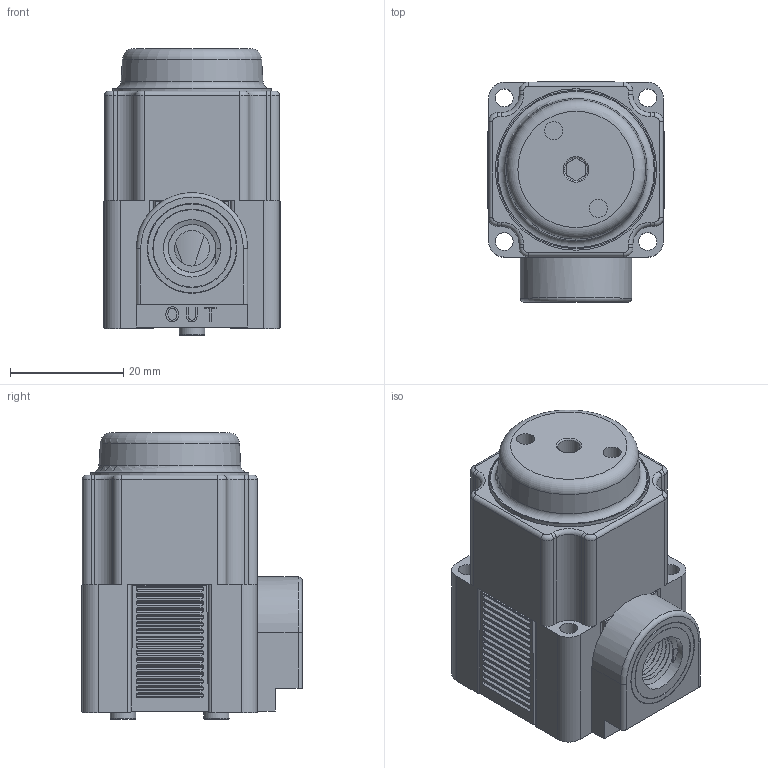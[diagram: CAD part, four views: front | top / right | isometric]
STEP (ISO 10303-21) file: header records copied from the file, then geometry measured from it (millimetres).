
FILE_DESCRIPTION(/* description */ (''),/* implementation_level */ '2;1');
FILE_NAME(/* name */ 'K:\Normteile INVENTOR\Air-Logic\Regulators\PR6000\PR 6___ 1 1''8-27 NPT Threads Out.igs.ipt.stp',/* time_stamp */ '2020-05-27T10:52:37+02:00',/* author */ ('Paul'),/* organization */ (''),/* preprocessor_version */ 'ST-DEVELOPER v18',/* originating_system */ 'Autodesk Inventor 2020',/* authorisation */ '');
FILE_SCHEMA (('AUTOMOTIVE_DESIGN { 1 0 10303 214 3 1 1 }'));
Length unit declared in the file: inch
Products named in the file (1): PR 6___ 1 1'8-27 NPT Threads Out.igs
Bounding box: 31.19 x 39.06 x 50.78 mm (x, y, z)
Volume: 41231 mm3; surface area: 14184.1 mm2
Topology: 1 solids, 1 shells, 720 faces, 1869 edges, 1232 vertices
Faces by surface type: plane 355, cylinder 288, bspline 44, torus 30, cone 3
Full cylindrical faces by diameter (mm): 1.194 x1, 2.032 x1, 3.124 x2, 3.175 x8, 3.226 x2, 4.013 x1, 4.521 x2, 6.248 x1, 8.382 x2, 8.458 x7, 9.169 x1, 9.652 x1, 10.163 x7, 12.903 x1, 13.716 x1, 13.872 x1, 15.707 x1, 15.913 x1, 25.781 x1, 28.047 x1, 28.575 x1
Entity records: 28601 total; most frequent: CARTESIAN_POINT 9908, DIRECTION 3824, ORIENTED_EDGE 3738, EDGE_CURVE 1869, AXIS2_PLACEMENT_3D 1496, VERTEX_POINT 1232, LINE 832, VECTOR 832
